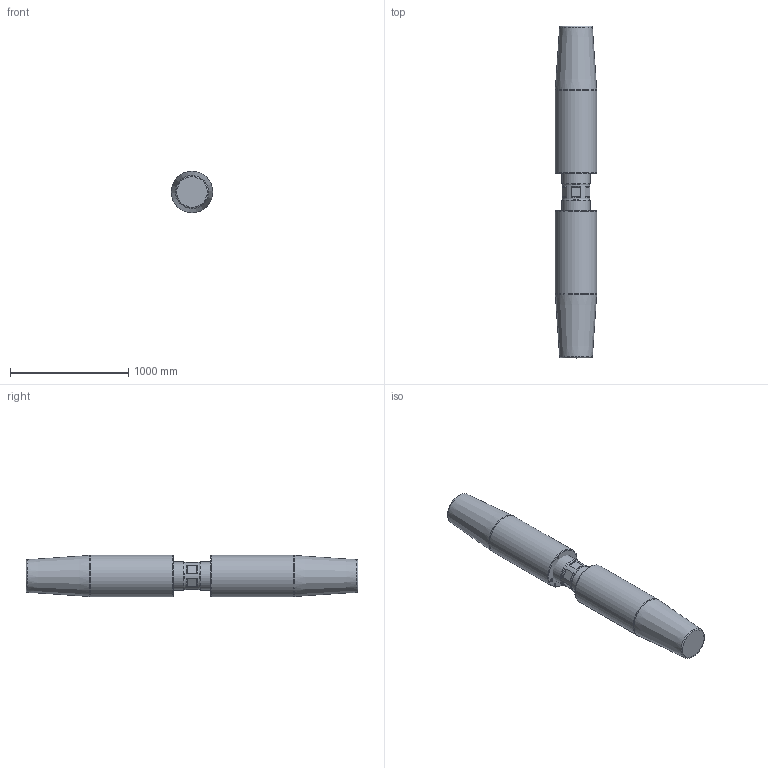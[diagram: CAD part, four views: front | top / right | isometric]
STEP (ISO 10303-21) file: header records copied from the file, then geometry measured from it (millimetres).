
FILE_DESCRIPTION(/* description */ (''),/* implementation_level */ '2;1');
FILE_NAME(/* name */ 'D:\Clienti\Redaelli (inventor)\CYA\STEP\Arrangement\CYA120 52 061 2.stp',/* time_stamp */ '2021-05-09T10:39:38+02:00',/* author */ ('fabri'),/* organization */ (''),/* preprocessor_version */ 'ST-DEVELOPER v16.13',/* originating_system */ 'Autodesk Inventor 2018',/* authorisation */ '');
FILE_SCHEMA (('AUTOMOTIVE_DESIGN { 1 0 10303 214 3 1 1 }'));
Length unit declared in the file: millimetre
Products named in the file (4): CYA012-54-062-0; TBF012-12-012-1; TBF012-13-012-0; TBF012-13-012-0_1
Assembly tree (3 placements, depth 2):
  CYA012-54-062-0
    TBF012-12-012-1
    TBF012-13-012-0
    TBF012-13-012-0_1
Bounding box: 349.77 x 2806 x 349.77 mm (x, y, z)
Volume: 272600904.8 mm3; surface area: 3925952 mm2
Topology: 3 solids, 3 shells, 481 faces, 1290 edges, 858 vertices
Faces by surface type: bspline 228, plane 210, cylinder 25, cone 14, torus 4
Full cylindrical faces by diameter (mm): 17.294 x8, 234 x1, 240 x2, 350 x2
Entity records: 16456 total; most frequent: CARTESIAN_POINT 6039, ORIENTED_EDGE 2502, DIRECTION 1333, EDGE_CURVE 1251, VERTEX_POINT 850, LINE 733, VECTOR 733, EDGE_LOOP 555
